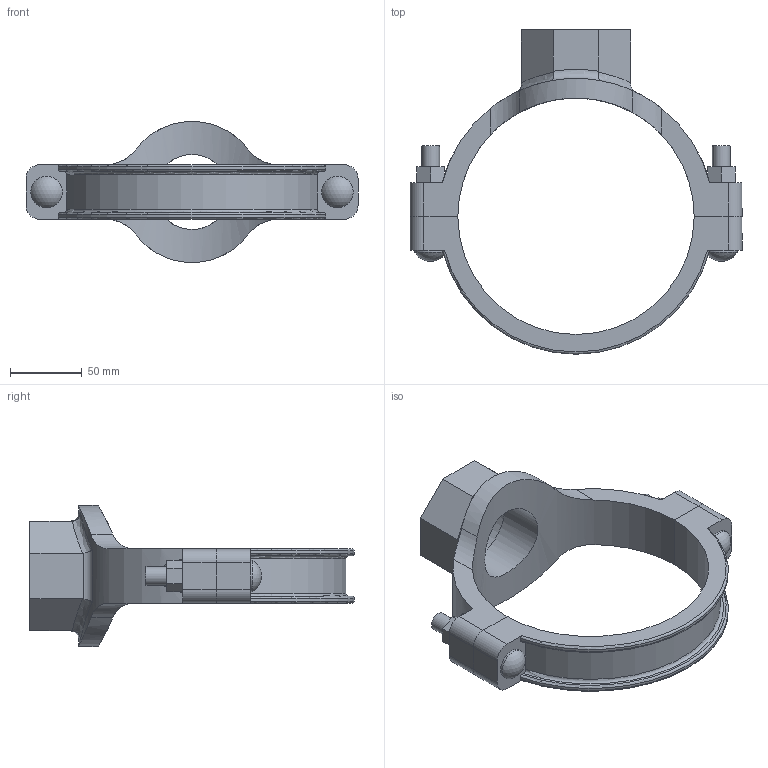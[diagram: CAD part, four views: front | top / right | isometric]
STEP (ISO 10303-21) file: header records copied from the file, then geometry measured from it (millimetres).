
FILE_DESCRIPTION(/* description */ (''),/* implementation_level */ '2;1');
FILE_NAME(/* name */ 'P:\Inventor CPS India\2018\920N\STEP\Mechanical-T_Style_920N_Threaded_[3D]\OUTLET_06.0x02.0 (165.1x50)_920N (THD).stp',/* time_stamp */ '2018-07-13T15:13:45+06:00',/* author */ ('Vjadhav'),/* organization */ (''),/* preprocessor_version */ 'ST-DEVELOPER v15.6',/* originating_system */ 'Autodesk Inventor 2015',/* authorisation */ '');
FILE_SCHEMA (('AUTOMOTIVE_DESIGN { 1 0 10303 214 3 1 1 }'));
Length unit declared in the file: inch
Products named in the file (3): 920N LOWER HSG-12; 920NT-HSG-45; 920NT
Bounding box: 231.9 x 226.57 x 98.55 mm (x, y, z)
Volume: 442068.9 mm3; surface area: 105864.4 mm2
Topology: 2 solids, 2 shells, 112 faces, 292 edges, 196 vertices
Faces by surface type: plane 58, cylinder 40, torus 8, bspline 4, sphere 2
Full cylindrical faces by diameter (mm): 12.7 x4, 21.982 x2, 52.387 x1, 60.325 x1
Entity records: 4082 total; most frequent: CARTESIAN_POINT 1196, ORIENTED_EDGE 560, DIRECTION 546, EDGE_CURVE 280, AXIS2_PLACEMENT_3D 196, VERTEX_POINT 192, LINE 154, VECTOR 154
